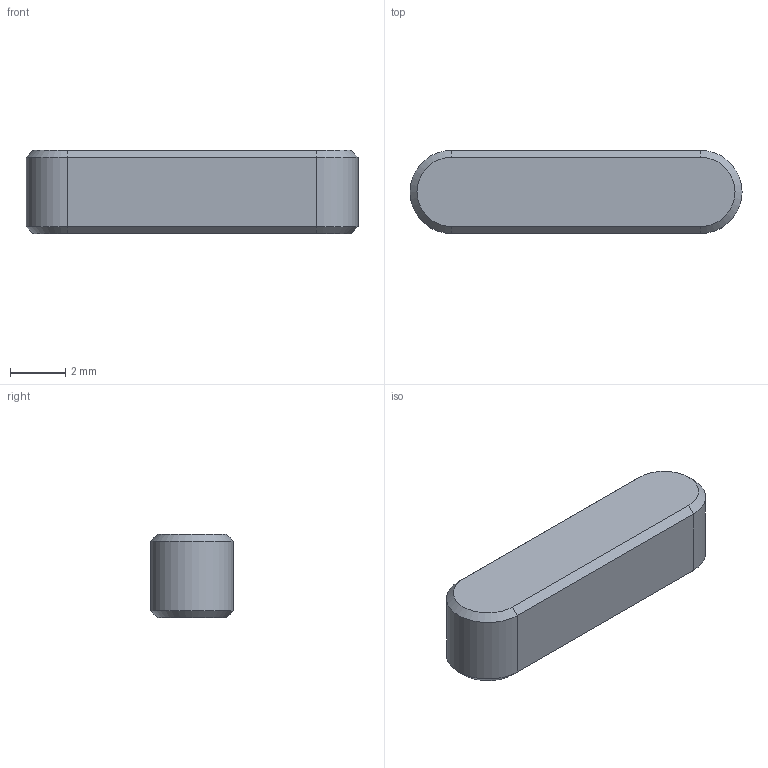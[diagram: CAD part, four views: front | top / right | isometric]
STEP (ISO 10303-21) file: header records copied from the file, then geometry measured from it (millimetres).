
FILE_DESCRIPTION(/* description */ ('키 및 해당 키홈'),/* implementation_level */ '2;1');
FILE_NAME(/* name */ '',/* time_stamp */ '2025-10-01T16:40:19+09:00',/* author */ ('jhkim'),/* organization */ (''),/* preprocessor_version */ 'ST-DEVELOPER v20.1',/* originating_system */ 'Autodesk Inventor 2026',/* authorisation */ '');
FILE_SCHEMA (('AUTOMOTIVE_DESIGN { 1 0 10303 214 3 1 1 }'));
Length unit declared in the file: millimetre
Products named in the file (1): 평행 키 3x3x12
Bounding box: 12 x 3 x 3 mm (x, y, z)
Volume: 100.5 mm3; surface area: 142.2 mm2
Topology: 1 solids, 1 shells, 14 faces, 28 edges, 16 vertices
Faces by surface type: plane 8, cone 4, cylinder 2
Entity records: 399 total; most frequent: DIRECTION 66, CARTESIAN_POINT 59, ORIENTED_EDGE 56, EDGE_CURVE 28, AXIS2_PLACEMENT_3D 23, LINE 20, VECTOR 20, VERTEX_POINT 16
